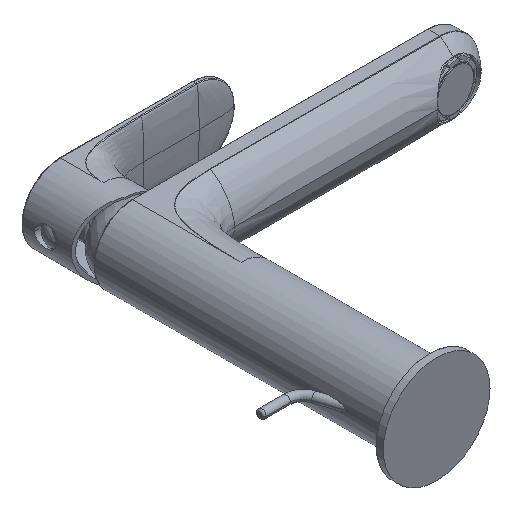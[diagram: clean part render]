
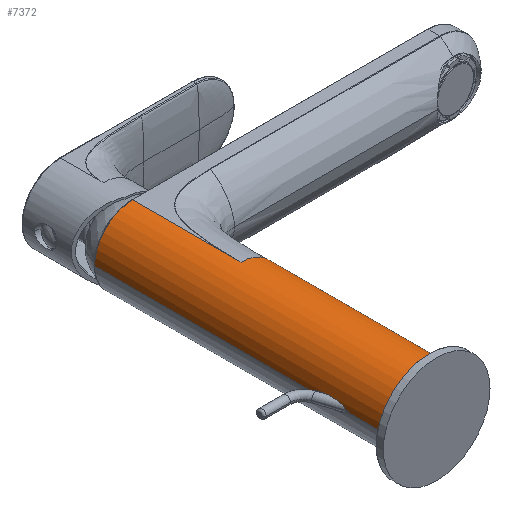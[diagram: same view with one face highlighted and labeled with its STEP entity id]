
A CAD part, isometric view. The second image highlights one B-rep face of the part: STEP entity #7372.
In plain terms, the highlighted cylindrical face has radius 17.5 mm (diameter 35 mm), a partial arc.
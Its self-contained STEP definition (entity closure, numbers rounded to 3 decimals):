
#1=CARTESIAN_POINT('',(0.,2.,0.));
#2=DIRECTION('',(0.,1.,0.));
#3=DIRECTION('',(-1.,0.,0.));
#4=AXIS2_PLACEMENT_3D('',#1,#2,#3);
#6=CARTESIAN_POINT('',(-17.5,37.281,0.));
#7=CARTESIAN_POINT('',(-17.5,37.281,0.136));
#8=CARTESIAN_POINT('',(-17.497,37.194,0.39));
#9=CARTESIAN_POINT('',(-17.486,36.87,0.73));
#10=CARTESIAN_POINT('',(-17.471,36.441,1.01));
#11=CARTESIAN_POINT('',(-17.456,35.932,1.253));
#12=CARTESIAN_POINT('',(-17.439,35.353,1.468));
#13=CARTESIAN_POINT('',(-17.422,34.704,1.658));
#14=CARTESIAN_POINT('',(-17.405,33.985,1.827));
#15=CARTESIAN_POINT('',(-17.389,33.193,1.973));
#16=CARTESIAN_POINT('',(-17.374,32.323,2.095));
#17=CARTESIAN_POINT('',(-17.363,31.369,2.188));
#18=CARTESIAN_POINT('',(-17.355,30.329,2.245));
#19=CARTESIAN_POINT('',(-17.354,29.18,2.258));
#20=CARTESIAN_POINT('',(-17.361,27.943,2.204));
#21=CARTESIAN_POINT('',(-17.375,26.853,2.092));
#22=CARTESIAN_POINT('',(-17.393,25.908,1.936));
#23=CARTESIAN_POINT('',(-17.414,25.077,1.74));
#24=CARTESIAN_POINT('',(-17.436,24.351,1.505));
#25=CARTESIAN_POINT('',(-17.458,23.724,1.224));
#26=CARTESIAN_POINT('',(-17.479,23.201,0.889));
#27=CARTESIAN_POINT('',(-17.496,22.816,0.47));
#28=CARTESIAN_POINT('',(-17.5,22.719,0.163));
#29=CARTESIAN_POINT('',(-17.5,22.719,0.));
#31=CARTESIAN_POINT('',(0.,137.5,0.));
#32=DIRECTION('',(0.,-1.,0.));
#33=DIRECTION('',(0.,0.,1.));
#34=AXIS2_PLACEMENT_3D('',#31,#32,#33);
#107=DIRECTION('',(0.,-1.,0.));
#108=VECTOR('',#107,86.);
#109=CARTESIAN_POINT('',(17.5,88.,0.));
#110=LINE('',#109,#108);
#116=DIRECTION('',(0.,-1.,0.));
#117=VECTOR('',#116,100.219);
#118=CARTESIAN_POINT('',(-17.5,137.5,0.));
#119=LINE('',#118,#117);
#145=DIRECTION('',(0.,-1.,0.));
#146=VECTOR('',#145,20.719);
#147=CARTESIAN_POINT('',(-17.5,22.719,0.));
#148=LINE('',#147,#146);
#208=CARTESIAN_POINT('',(17.5,88.,0.));
#319=CARTESIAN_POINT('',(0.,88.,0.));
#320=DIRECTION('',(0.,1.,0.));
#321=DIRECTION('',(0.995,0.,0.098));
#322=AXIS2_PLACEMENT_3D('',#319,#320,#321);
#324=CARTESIAN_POINT('',(0.,88.,0.));
#325=DIRECTION('',(0.,1.,0.));
#326=DIRECTION('',(0.99,0.,0.144));
#327=AXIS2_PLACEMENT_3D('',#324,#325,#326);
#329=CARTESIAN_POINT('',(0.,88.,0.));
#330=DIRECTION('',(0.,1.,0.));
#331=DIRECTION('',(0.981,0.,0.195));
#332=AXIS2_PLACEMENT_3D('',#329,#330,#331);
#334=CARTESIAN_POINT('',(0.,88.,0.));
#335=DIRECTION('',(0.,1.,0.));
#336=DIRECTION('',(0.925,0.,0.379));
#337=AXIS2_PLACEMENT_3D('',#334,#335,#336);
#339=CARTESIAN_POINT('',(13.779,88.003,10.788));
#340=CARTESIAN_POINT('',(14.109,88.004,10.366));
#341=CARTESIAN_POINT('',(14.731,88.005,9.493));
#342=CARTESIAN_POINT('',(15.539,88.001,8.102));
#343=CARTESIAN_POINT('',(15.991,88.,7.129));
#344=CARTESIAN_POINT('',(16.194,88.,6.634));
#346=CARTESIAN_POINT('',(13.392,88.,11.265));
#347=CARTESIAN_POINT('',(13.436,88.,11.213));
#348=CARTESIAN_POINT('',(13.523,88.,11.108));
#349=CARTESIAN_POINT('',(13.652,88.,10.949));
#350=CARTESIAN_POINT('',(13.737,88.002,10.842));
#351=CARTESIAN_POINT('',(13.779,88.003,10.788));
#353=CARTESIAN_POINT('',(0.,88.,0.));
#354=DIRECTION('',(0.,1.,0.));
#355=DIRECTION('',(0.,0.,1.));
#356=AXIS2_PLACEMENT_3D('',#353,#354,#355);
#358=CARTESIAN_POINT('',(0.,88.,17.5));
#359=CARTESIAN_POINT('',(0.,88.164,17.5));
#360=CARTESIAN_POINT('',(0.,88.327,17.5));
#361=CARTESIAN_POINT('',(0.,88.489,17.5));
#393=CARTESIAN_POINT('',(0.,88.489,17.5));
#395=DIRECTION('',(0.,1.,0.));
#396=VECTOR('',#395,49.011);
#397=CARTESIAN_POINT('',(0.,88.489,17.5));
#398=LINE('',#397,#396);
#6231=CARTESIAN_POINT('',(0.,88.,17.5));
#6232=CARTESIAN_POINT('',(13.392,88.,11.265));
#6233=VERTEX_POINT('',#6231);
#6234=VERTEX_POINT('',#6232);
#6235=VERTEX_POINT('',#351);
#6240=VERTEX_POINT('',#208);
#6244=CARTESIAN_POINT('',(0.,137.5,17.5));
#6245=CARTESIAN_POINT('',(-17.5,137.5,0.));
#6246=VERTEX_POINT('',#6244);
#6247=VERTEX_POINT('',#6245);
#6262=VERTEX_POINT('',#344);
#6327=CARTESIAN_POINT('',(17.164,88.,3.414));
#6328=CARTESIAN_POINT('',(17.316,88.,2.528));
#6329=VERTEX_POINT('',#6327);
#6330=VERTEX_POINT('',#6328);
#6331=CARTESIAN_POINT('',(17.416,88.,1.715));
#6332=VERTEX_POINT('',#6331);
#6354=VERTEX_POINT('',#6);
#6355=VERTEX_POINT('',#29);
#6567=VERTEX_POINT('',#393);
#7245=CARTESIAN_POINT('',(-17.5,2.,0.));
#7246=CARTESIAN_POINT('',(17.5,2.,0.));
#7247=VERTEX_POINT('',#7245);
#7248=VERTEX_POINT('',#7246);
#7335=CARTESIAN_POINT('',(0.,-4.4,0.));
#7336=DIRECTION('',(0.,1.,0.));
#7337=DIRECTION('',(1.,0.,0.));
#7338=AXIS2_PLACEMENT_3D('',#7335,#7336,#7337);
#7339=CYLINDRICAL_SURFACE('',#7338,17.5);
#7341=ORIENTED_EDGE('',*,*,#7340,.F.);
#7343=ORIENTED_EDGE('',*,*,#7342,.F.);
#7345=ORIENTED_EDGE('',*,*,#7344,.F.);
#7347=ORIENTED_EDGE('',*,*,#7346,.F.);
#7349=ORIENTED_EDGE('',*,*,#7348,.F.);
#7351=ORIENTED_EDGE('',*,*,#7350,.F.);
#7353=ORIENTED_EDGE('',*,*,#7352,.F.);
#7355=ORIENTED_EDGE('',*,*,#7354,.T.);
#7357=ORIENTED_EDGE('',*,*,#7356,.T.);
#7359=ORIENTED_EDGE('',*,*,#7358,.T.);
#7361=ORIENTED_EDGE('',*,*,#7360,.T.);
#7363=ORIENTED_EDGE('',*,*,#7362,.T.);
#7365=ORIENTED_EDGE('',*,*,#7364,.T.);
#7367=ORIENTED_EDGE('',*,*,#7366,.T.);
#7369=ORIENTED_EDGE('',*,*,#7368,.T.);
#7370=EDGE_LOOP('',(#7341,#7343,#7345,#7347,#7349,#7351,#7353,#7355,#7357,#7359,
#7361,#7363,#7365,#7367,#7369));
#7371=FACE_OUTER_BOUND('',#7370,.F.);
#7372=ADVANCED_FACE('',(#7371),#7339,.T.);
#5=CIRCLE('',#4,17.5);
#30=B_SPLINE_CURVE_WITH_KNOTS('',3,(#6,#7,#8,#9,#10,#11,#12,#13,#14,#15,#16,#17,
#18,#19,#20,#21,#22,#23,#24,#25,#26,#27,#28,#29),.UNSPECIFIED.,.F.,.F.,(4,1,1,1,
1,1,1,1,1,1,1,1,1,1,1,1,1,1,1,1,1,4),(0.,0.048,0.095,
0.143,0.19,0.238,0.286,
0.333,0.381,0.429,0.476,
0.524,0.571,0.619,0.667,
0.714,0.762,0.81,0.857,
0.905,0.952,1.),.UNSPECIFIED.);
#35=CIRCLE('',#34,17.5);
#323=CIRCLE('',#322,17.5);
#328=CIRCLE('',#327,17.5);
#333=CIRCLE('',#332,17.5);
#338=CIRCLE('',#337,17.5);
#345=B_SPLINE_CURVE_WITH_KNOTS('',3,(#339,#340,#341,#342,#343,#344),
.UNSPECIFIED.,.F.,.F.,(4,1,1,4),(0.,0.333,0.667,1.),
.UNSPECIFIED.);
#352=B_SPLINE_CURVE_WITH_KNOTS('',3,(#346,#347,#348,#349,#350,#351),
.UNSPECIFIED.,.F.,.F.,(4,1,1,4),(0.,0.333,0.667,1.),
.UNSPECIFIED.);
#357=CIRCLE('',#356,17.5);
#362=B_SPLINE_CURVE_WITH_KNOTS('',3,(#358,#359,#360,#361),.UNSPECIFIED.,.F.,.F.,
(4,4),(0.,1.),.UNSPECIFIED.);
#7340=EDGE_CURVE('',#7247,#7248,#5,.T.);
#7342=EDGE_CURVE('',#6355,#7247,#148,.T.);
#7344=EDGE_CURVE('',#6354,#6355,#30,.T.);
#7346=EDGE_CURVE('',#6247,#6354,#119,.T.);
#7348=EDGE_CURVE('',#6246,#6247,#35,.T.);
#7350=EDGE_CURVE('',#6567,#6246,#398,.T.);
#7352=EDGE_CURVE('',#6233,#6567,#362,.T.);
#7354=EDGE_CURVE('',#6233,#6234,#357,.T.);
#7356=EDGE_CURVE('',#6234,#6235,#352,.T.);
#7358=EDGE_CURVE('',#6235,#6262,#345,.T.);
#7360=EDGE_CURVE('',#6262,#6329,#338,.T.);
#7362=EDGE_CURVE('',#6329,#6330,#333,.T.);
#7364=EDGE_CURVE('',#6330,#6332,#328,.T.);
#7366=EDGE_CURVE('',#6332,#6240,#323,.T.);
#7368=EDGE_CURVE('',#6240,#7248,#110,.T.);
